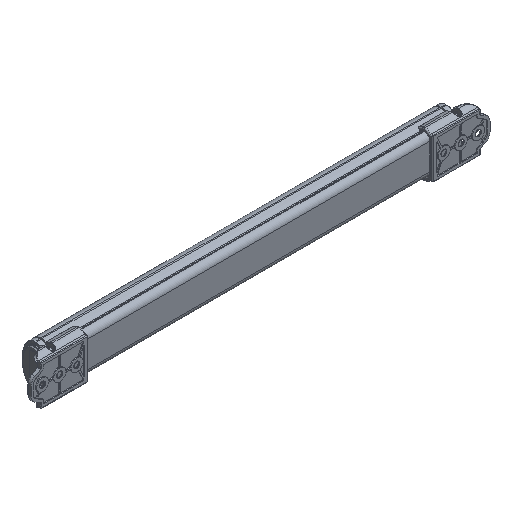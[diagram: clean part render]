
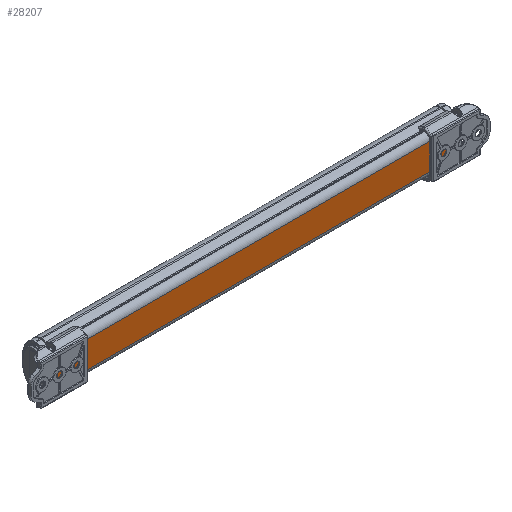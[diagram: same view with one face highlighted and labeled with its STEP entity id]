
A CAD part, isometric view. The second image highlights one B-rep face of the part: STEP entity #28207.
In plain terms, the highlighted planar face has unit normal (0, -1, 0).
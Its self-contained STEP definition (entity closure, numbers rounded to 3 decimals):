
#528 = LINE ( 'NONE', #11418, #16868 ) ;
#2908 = LINE ( 'NONE', #22866, #31740 ) ;
#3130 = CARTESIAN_POINT ( 'NONE',  ( -204.355, -13.877, 902.606 ) ) ;
#4072 = DIRECTION ( 'NONE',  ( 0., 0., -1. ) ) ;
#4395 = DIRECTION ( 'NONE',  ( -1., 0., 0. ) ) ;
#7718 = DIRECTION ( 'NONE',  ( 0., 0., 1. ) ) ;
#7742 = VERTEX_POINT ( 'NONE', #30327 ) ;
#10625 = EDGE_CURVE ( 'NONE', #7742, #24235, #35167, .T. ) ;
#11418 = CARTESIAN_POINT ( 'NONE',  ( -304.355, -13.877, 923.394 ) ) ;
#11934 = LINE ( 'NONE', #25775, #41352 ) ;
#13246 = EDGE_CURVE ( 'NONE', #19522, #41023, #2908, .T. ) ;
#14542 = ORIENTED_EDGE ( 'NONE', *, *, #10625, .F. ) ;
#16516 = EDGE_CURVE ( 'NONE', #7742, #19522, #528, .T. ) ;
#16868 = VECTOR ( 'NONE', #4395, 1000. ) ;
#16899 = ORIENTED_EDGE ( 'NONE', *, *, #13246, .T. ) ;
#17723 = EDGE_LOOP ( 'NONE', ( #16899, #28015, #14542, #21950 ) ) ;
#17924 = CARTESIAN_POINT ( 'NONE',  ( -517.355, -13.877, 902.606 ) ) ;
#19522 = VERTEX_POINT ( 'NONE', #26890 ) ;
#21950 = ORIENTED_EDGE ( 'NONE', *, *, #16516, .T. ) ;
#22538 = VECTOR ( 'NONE', #4072, 1000. ) ;
#22866 = CARTESIAN_POINT ( 'NONE',  ( -517.355, -13.877, 923.394 ) ) ;
#24235 = VERTEX_POINT ( 'NONE', #3130 ) ;
#25775 = CARTESIAN_POINT ( 'NONE',  ( -304.355, -13.877, 902.606 ) ) ;
#26890 = CARTESIAN_POINT ( 'NONE',  ( -517.355, -13.877, 923.394 ) ) ;
#28015 = ORIENTED_EDGE ( 'NONE', *, *, #29955, .F. ) ;
#28207 = ADVANCED_FACE ( 'NONE', ( #34504 ), #41733, .F. ) ;
#29955 = EDGE_CURVE ( 'NONE', #24235, #41023, #11934, .T. ) ;
#30327 = CARTESIAN_POINT ( 'NONE',  ( -204.355, -13.877, 923.394 ) ) ;
#31358 = DIRECTION ( 'NONE',  ( 0., 1., 0. ) ) ;
#31740 = VECTOR ( 'NONE', #33550, 1000. ) ;
#33476 = DIRECTION ( 'NONE',  ( -1., 0., 0. ) ) ;
#33550 = DIRECTION ( 'NONE',  ( 0., 0., -1. ) ) ;
#34504 = FACE_OUTER_BOUND ( 'NONE', #17723, .T. ) ;
#34723 = CARTESIAN_POINT ( 'NONE',  ( -304.355, -13.877, 923.394 ) ) ;
#35167 = LINE ( 'NONE', #41948, #22538 ) ;
#36985 = AXIS2_PLACEMENT_3D ( 'NONE', #34723, #31358, #7718 ) ;
#41023 = VERTEX_POINT ( 'NONE', #17924 ) ;
#41352 = VECTOR ( 'NONE', #33476, 1000. ) ;
#41733 = PLANE ( 'NONE',  #36985 ) ;
#41948 = CARTESIAN_POINT ( 'NONE',  ( -204.355, -13.877, 923.394 ) ) ;
